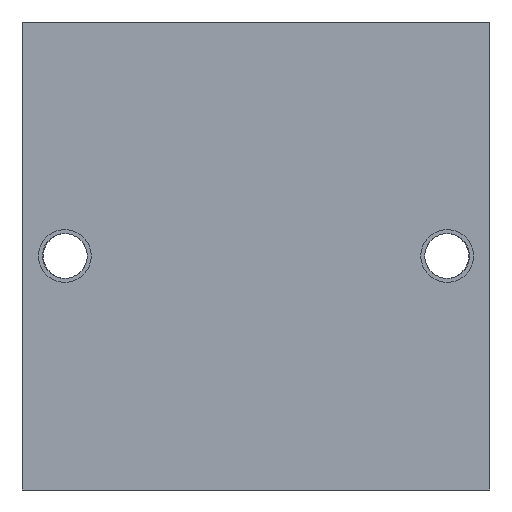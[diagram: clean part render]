
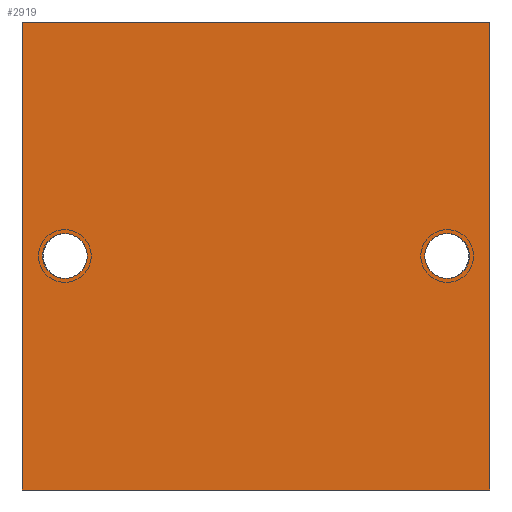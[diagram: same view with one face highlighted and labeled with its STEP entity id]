
A CAD part, front view. The second image highlights one B-rep face of the part: STEP entity #2919.
In plain terms, the highlighted planar face has unit normal (0, -1, 0).
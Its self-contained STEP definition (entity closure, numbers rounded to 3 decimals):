
#22=DIRECTION('',(1.,0.,0.));
#23=VECTOR('',#22,71.);
#24=CARTESIAN_POINT('',(0.,0.,0.));
#25=LINE('',#24,#23);
#115=DIRECTION('',(0.,0.,-1.));
#116=VECTOR('',#115,71.);
#117=CARTESIAN_POINT('',(0.,0.,0.));
#118=LINE('',#117,#116);
#122=CARTESIAN_POINT('',(6.5,0.,-35.5));
#123=DIRECTION('',(0.,-1.,0.));
#124=DIRECTION('',(-1.,0.,0.));
#125=AXIS2_PLACEMENT_3D('',#122,#123,#124);
#130=CARTESIAN_POINT('',(6.5,0.,-35.5));
#131=DIRECTION('',(0.,-1.,0.));
#132=DIRECTION('',(1.,0.,0.));
#133=AXIS2_PLACEMENT_3D('',#130,#131,#132);
#138=CARTESIAN_POINT('',(64.5,0.,-35.5));
#139=DIRECTION('',(0.,-1.,0.));
#140=DIRECTION('',(-1.,0.,0.));
#141=AXIS2_PLACEMENT_3D('',#138,#139,#140);
#146=CARTESIAN_POINT('',(64.5,0.,-35.5));
#147=DIRECTION('',(0.,-1.,0.));
#148=DIRECTION('',(1.,0.,0.));
#149=AXIS2_PLACEMENT_3D('',#146,#147,#148);
#154=DIRECTION('',(0.,0.,-1.));
#155=VECTOR('',#154,71.);
#156=CARTESIAN_POINT('',(71.,0.,0.));
#157=LINE('',#156,#155);
#589=DIRECTION('',(1.,0.,0.));
#590=VECTOR('',#589,71.);
#591=CARTESIAN_POINT('',(0.,0.,-71.));
#592=LINE('',#591,#590);
#2502=CARTESIAN_POINT('',(0.,0.,0.));
#2503=CARTESIAN_POINT('',(71.,0.,0.));
#2504=VERTEX_POINT('',#2502);
#2505=VERTEX_POINT('',#2503);
#2510=CARTESIAN_POINT('',(0.,0.,-71.));
#2511=CARTESIAN_POINT('',(71.,0.,-71.));
#2512=VERTEX_POINT('',#2510);
#2513=VERTEX_POINT('',#2511);
#2684=CARTESIAN_POINT('',(3.1,0.,-35.5));
#2685=CARTESIAN_POINT('',(9.9,0.,-35.5));
#2686=VERTEX_POINT('',#2684);
#2687=VERTEX_POINT('',#2685);
#2690=CARTESIAN_POINT('',(61.1,0.,-35.5));
#2691=CARTESIAN_POINT('',(67.9,0.,-35.5));
#2692=VERTEX_POINT('',#2690);
#2693=VERTEX_POINT('',#2691);
#2893=CARTESIAN_POINT('',(0.,0.,0.));
#2894=DIRECTION('',(0.,-1.,0.));
#2895=DIRECTION('',(1.,0.,0.));
#2896=AXIS2_PLACEMENT_3D('',#2893,#2894,#2895);
#2897=PLANE('',#2896);
#2898=ORIENTED_EDGE('',*,*,#2851,.T.);
#2900=ORIENTED_EDGE('',*,*,#2899,.T.);
#2902=ORIENTED_EDGE('',*,*,#2901,.F.);
#2904=ORIENTED_EDGE('',*,*,#2903,.F.);
#2905=EDGE_LOOP('',(#2898,#2900,#2902,#2904));
#2906=FACE_OUTER_BOUND('',#2905,.F.);
#2908=ORIENTED_EDGE('',*,*,#2907,.T.);
#2910=ORIENTED_EDGE('',*,*,#2909,.T.);
#2911=EDGE_LOOP('',(#2908,#2910));
#2912=FACE_BOUND('',#2911,.F.);
#2914=ORIENTED_EDGE('',*,*,#2913,.T.);
#2916=ORIENTED_EDGE('',*,*,#2915,.T.);
#2917=EDGE_LOOP('',(#2914,#2916));
#2918=FACE_BOUND('',#2917,.F.);
#126=CIRCLE('',#125,3.4);
#134=CIRCLE('',#133,3.4);
#142=CIRCLE('',#141,3.4);
#150=CIRCLE('',#149,3.4);
#2851=EDGE_CURVE('',#2504,#2505,#25,.T.);
#2899=EDGE_CURVE('',#2505,#2513,#157,.T.);
#2901=EDGE_CURVE('',#2512,#2513,#592,.T.);
#2903=EDGE_CURVE('',#2504,#2512,#118,.T.);
#2907=EDGE_CURVE('',#2686,#2687,#126,.T.);
#2909=EDGE_CURVE('',#2687,#2686,#134,.T.);
#2913=EDGE_CURVE('',#2692,#2693,#142,.T.);
#2915=EDGE_CURVE('',#2693,#2692,#150,.T.);
#2919=ADVANCED_FACE('',(#2906,#2912,#2918),#2897,.T.);
